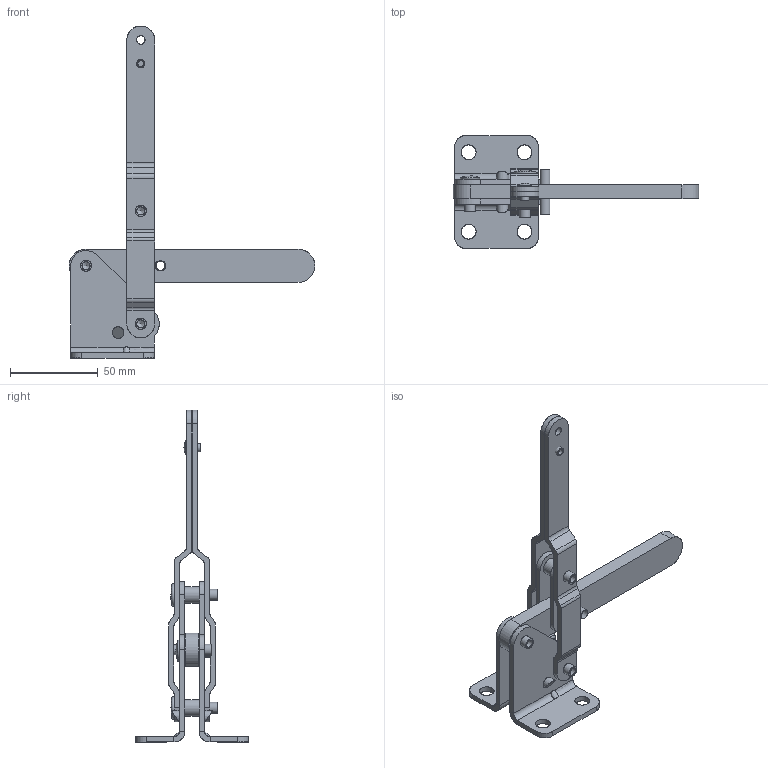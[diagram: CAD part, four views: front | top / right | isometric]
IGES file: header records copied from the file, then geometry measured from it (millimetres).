
Global section: file name: C:\T&M Tech\Carbide Tech\Work\600 series\vst-600.igs; native system: Unigraphics Version X V1.0; preprocessor: Unigraphics NX IGES V1.0; date: 20040408.104707; units: inch
Bounding box: 139.7 x 64.29 x 188.97 mm (x, y, z)
Surface area: 90018 mm2 (no closed solid volume)
Topology: 0 solids, 0 shells, 1002 faces, 11430 edges, 11316 vertices
Faces by surface type: extrusion 778, revolution 224
